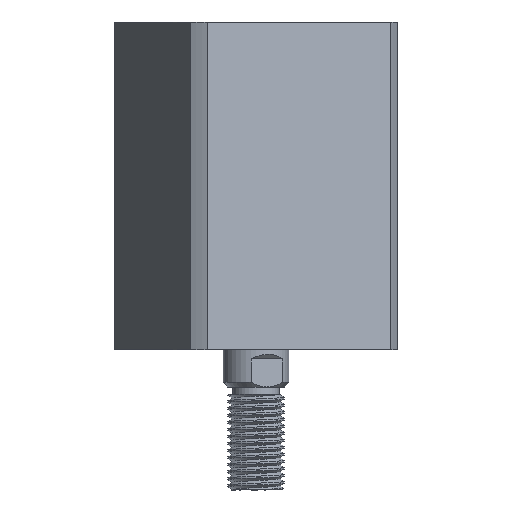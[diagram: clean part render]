
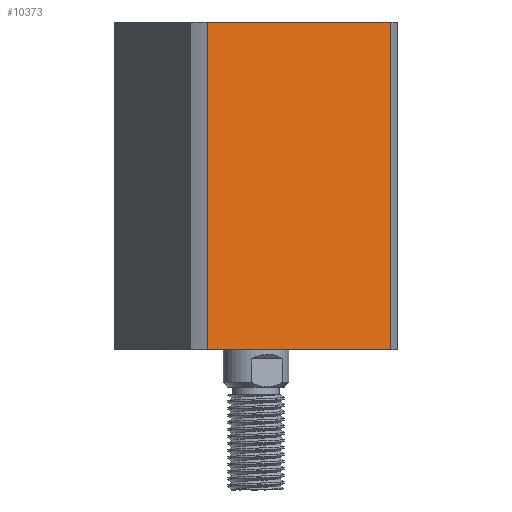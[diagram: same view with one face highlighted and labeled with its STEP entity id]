
A CAD part, left-side view. The second image highlights one B-rep face of the part: STEP entity #10373.
In plain terms, the highlighted planar face has unit normal (-0.924, -0.383, 0) as drawn and (1, 0, 0) by its records, which use the part's own axes.
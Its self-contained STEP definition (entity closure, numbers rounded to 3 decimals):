
#16 = CARTESIAN_POINT ( 'NONE',  ( 24., -21.166, 0. ) ) ;
#349 = VERTEX_POINT ( 'NONE', #8714 ) ;
#426 = CARTESIAN_POINT ( 'NONE',  ( 24., -21.166, 70. ) ) ;
#782 = DIRECTION ( 'NONE',  ( 0., 0., 1. ) ) ;
#811 = VECTOR ( 'NONE', #782, 1000. ) ;
#912 = FACE_OUTER_BOUND ( 'NONE', #4412, .T. ) ;
#1295 = LINE ( 'NONE', #9326, #9902 ) ;
#1559 = PLANE ( 'NONE',  #9898 ) ;
#1833 = VERTEX_POINT ( 'NONE', #16 ) ;
#2408 = EDGE_CURVE ( 'NONE', #1833, #6588, #5231, .T. ) ;
#2461 = DIRECTION ( 'NONE',  ( 0., -1., 0. ) ) ;
#2676 = LINE ( 'NONE', #8882, #9047 ) ;
#2744 = ORIENTED_EDGE ( 'NONE', *, *, #2408, .F. ) ;
#3270 = ORIENTED_EDGE ( 'NONE', *, *, #9984, .F. ) ;
#3459 = EDGE_CURVE ( 'NONE', #6588, #9741, #2676, .T. ) ;
#4412 = EDGE_LOOP ( 'NONE', ( #2744, #6215, #3270, #8808 ) ) ;
#4728 = DIRECTION ( 'NONE',  ( 0., 1., 0. ) ) ;
#5209 = CARTESIAN_POINT ( 'NONE',  ( 24., 21.166, 70. ) ) ;
#5231 = LINE ( 'NONE', #5746, #811 ) ;
#5408 = CARTESIAN_POINT ( 'NONE',  ( 24., 21.166, -230. ) ) ;
#5746 = CARTESIAN_POINT ( 'NONE',  ( 24., -21.166, -230. ) ) ;
#6215 = ORIENTED_EDGE ( 'NONE', *, *, #7370, .T. ) ;
#6588 = VERTEX_POINT ( 'NONE', #426 ) ;
#6886 = LINE ( 'NONE', #5408, #10821 ) ;
#6934 = DIRECTION ( 'NONE',  ( 0., 1., 0. ) ) ;
#7370 = EDGE_CURVE ( 'NONE', #1833, #349, #1295, .T. ) ;
#7387 = DIRECTION ( 'NONE',  ( -1., 0., 0. ) ) ;
#8216 = CARTESIAN_POINT ( 'NONE',  ( 24., 24., 70. ) ) ;
#8714 = CARTESIAN_POINT ( 'NONE',  ( 24., 21.166, 0. ) ) ;
#8808 = ORIENTED_EDGE ( 'NONE', *, *, #3459, .F. ) ;
#8840 = DIRECTION ( 'NONE',  ( 0., 0., -1. ) ) ;
#8882 = CARTESIAN_POINT ( 'NONE',  ( 24., 24., 70. ) ) ;
#9047 = VECTOR ( 'NONE', #4728, 1000. ) ;
#9326 = CARTESIAN_POINT ( 'NONE',  ( 24., 24., 0. ) ) ;
#9741 = VERTEX_POINT ( 'NONE', #5209 ) ;
#9898 = AXIS2_PLACEMENT_3D ( 'NONE', #8216, #7387, #2461 ) ;
#9902 = VECTOR ( 'NONE', #6934, 1000. ) ;
#9984 = EDGE_CURVE ( 'NONE', #9741, #349, #6886, .T. ) ;
#10373 = ADVANCED_FACE ( 'NONE', ( #912 ), #1559, .F. ) ;
#10821 = VECTOR ( 'NONE', #8840, 1000. ) ;
